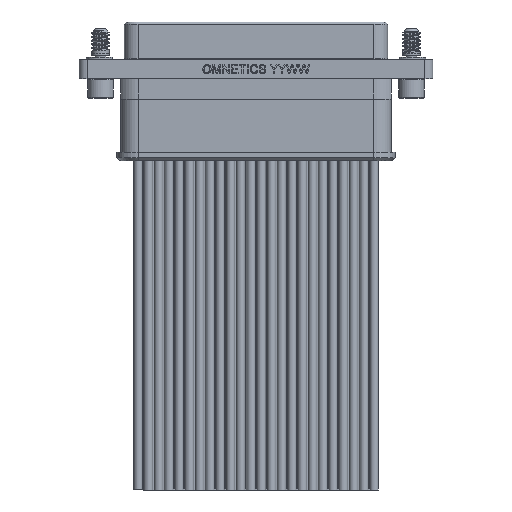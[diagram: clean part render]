
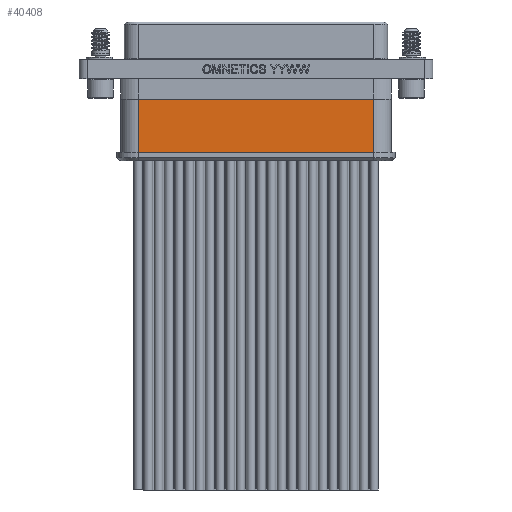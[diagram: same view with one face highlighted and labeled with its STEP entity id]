
A CAD part, front view. The second image highlights one B-rep face of the part: STEP entity #40408.
In plain terms, the highlighted planar face has unit normal (0, -1, 0).
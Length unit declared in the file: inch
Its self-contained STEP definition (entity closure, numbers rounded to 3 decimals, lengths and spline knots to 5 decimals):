
#706 = DIRECTION ( 'NONE',  ( 0., 0., 1. ) ) ;
#1278 = VERTEX_POINT ( 'NONE', #42573 ) ;
#1357 = VERTEX_POINT ( 'NONE', #32156 ) ;
#2353 = FACE_OUTER_BOUND ( 'NONE', #38098, .T. ) ;
#2825 = LINE ( 'NONE', #44430, #3390 ) ;
#2948 = VERTEX_POINT ( 'NONE', #12542 ) ;
#3390 = VECTOR ( 'NONE', #44264, 39.37008 ) ;
#4570 = CARTESIAN_POINT ( 'NONE',  ( 0.5735, -0.1256, -0.411 ) ) ;
#5195 = EDGE_CURVE ( 'NONE', #25433, #1357, #5256, .T. ) ;
#5256 = LINE ( 'NONE', #8892, #10270 ) ;
#5450 = PLANE ( 'NONE',  #19495 ) ;
#5845 = VECTOR ( 'NONE', #706, 39.37008 ) ;
#7349 = LINE ( 'NONE', #18205, #41621 ) ;
#8892 = CARTESIAN_POINT ( 'NONE',  ( -0.5735, -0.1256, -0.411 ) ) ;
#10270 = VECTOR ( 'NONE', #32934, 39.37008 ) ;
#12034 = DIRECTION ( 'NONE',  ( -1., 0., 0. ) ) ;
#12325 = CARTESIAN_POINT ( 'NONE',  ( 0.5735, -0.1256, -0.411 ) ) ;
#12494 = EDGE_CURVE ( 'NONE', #2948, #1278, #15287, .T. ) ;
#12542 = CARTESIAN_POINT ( 'NONE',  ( 0.5735, -0.1256, -0.411 ) ) ;
#15287 = LINE ( 'NONE', #4570, #5845 ) ;
#18205 = CARTESIAN_POINT ( 'NONE',  ( 0.5735, -0.1256, -0.411 ) ) ;
#19495 = AXIS2_PLACEMENT_3D ( 'NONE', #12325, #40272, #12034 ) ;
#20503 = ORIENTED_EDGE ( 'NONE', *, *, #5195, .F. ) ;
#24379 = EDGE_CURVE ( 'NONE', #1357, #1278, #2825, .T. ) ;
#25433 = VERTEX_POINT ( 'NONE', #32753 ) ;
#27466 = ORIENTED_EDGE ( 'NONE', *, *, #24379, .F. ) ;
#32156 = CARTESIAN_POINT ( 'NONE',  ( -0.5735, -0.1256, -0.151 ) ) ;
#32753 = CARTESIAN_POINT ( 'NONE',  ( -0.5735, -0.1256, -0.411 ) ) ;
#32934 = DIRECTION ( 'NONE',  ( 0., 0., 1. ) ) ;
#36624 = ORIENTED_EDGE ( 'NONE', *, *, #40688, .F. ) ;
#36732 = DIRECTION ( 'NONE',  ( -1., 0., 0. ) ) ;
#38098 = EDGE_LOOP ( 'NONE', ( #27466, #20503, #36624, #41256 ) ) ;
#40272 = DIRECTION ( 'NONE',  ( 0., 1., 0. ) ) ;
#40408 = ADVANCED_FACE ( 'NONE', ( #2353 ), #5450, .F. ) ;
#40688 = EDGE_CURVE ( 'NONE', #2948, #25433, #7349, .T. ) ;
#41256 = ORIENTED_EDGE ( 'NONE', *, *, #12494, .T. ) ;
#41621 = VECTOR ( 'NONE', #36732, 39.37008 ) ;
#42573 = CARTESIAN_POINT ( 'NONE',  ( 0.5735, -0.1256, -0.151 ) ) ;
#44264 = DIRECTION ( 'NONE',  ( 1., 0., 0. ) ) ;
#44430 = CARTESIAN_POINT ( 'NONE',  ( -0.5735, -0.1256, -0.151 ) ) ;
